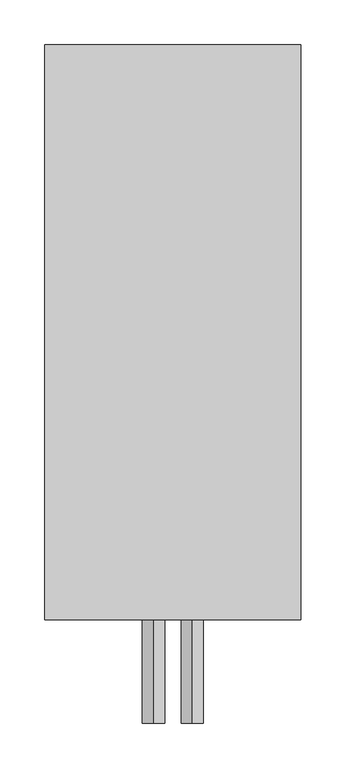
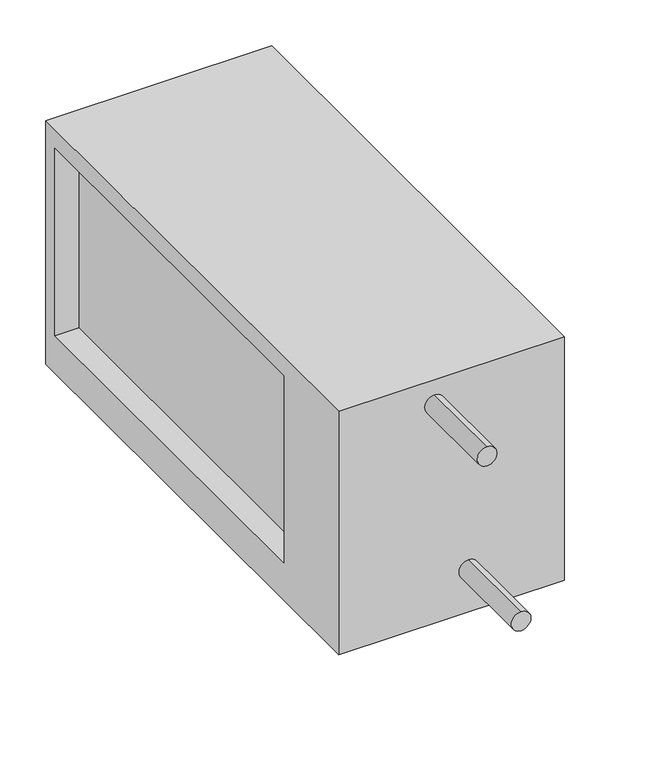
"""IFC4 building model written with IfcOpenShell, lengths in millimetres: proxy geometry, СВ_ВоздухоохладительВодяной_КанальныйПрямоугольный_200-1000_SPC-W : SPC-W-500x250-R."""

from ifc_helpers import new_model, si_unit, point, frame, frame_2d, origin, place, context, project, spatial, polyline, circle_curve, trimmed, segment, composite_curve, outline, extrude, source, transform, mapped, element, save


def mechanical_equipment_186e71d2(model_context):
    return source(origin(), model_context, "Body", "SweptSolid", [
        extrude(outline(polyline([(-370.0, -175.0), (-370.0, 150.0), (270.0, 150.0), (270.0, -175.0), (-370.0, -175.0)]), holes=[polyline([(-250.0, 125.0), (-250.0, -125.0), (250.0, -125.0), (250.0, 125.0), (-250.0, 125.0)])]), frame((-142.5, 0.0, 0.0), z_axis=(1.0, 0.0, 0.0), x_axis=(0.0, 1.0, 0.0)), (0.0, 0.0, 1.0), 285.0),
        extrude(outline(composite_curve([segment(trimmed(circle_curve(frame_2d((-117.5, 21.5)), 12.5), [point((-105.0, 21.5))], [point((-130.0, 21.5))], False, "CARTESIAN"), True, "CONTINUOUS"), segment(trimmed(circle_curve(frame_2d((-117.5, 21.5)), 12.5), [point((-130.0, 21.5))], [point((-105.0, 21.5))], False, "CARTESIAN"), True, "CONTINUOUS")], self_intersect=False)), frame((0.0, -485.0, 0.0), z_axis=(0.0, 1.0, 0.0), x_axis=(0.0, 0.0, 1.0)), (0.0, 0.0, 1.0), 115.0),
        extrude(outline(composite_curve([segment(trimmed(circle_curve(frame_2d((117.5, -21.5)), 12.5), [point((130.0, -21.5))], [point((105.0, -21.5))], False, "CARTESIAN"), True, "CONTINUOUS"), segment(trimmed(circle_curve(frame_2d((117.5, -21.5)), 12.5), [point((105.0, -21.5))], [point((130.0, -21.5))], False, "CARTESIAN"), True, "CONTINUOUS")], self_intersect=False)), frame((0.0, -485.0, 0.0), z_axis=(0.0, 1.0, 0.0), x_axis=(0.0, 0.0, 1.0)), (0.0, 0.0, 1.0), 115.0),
        extrude(outline(composite_curve([segment(trimmed(circle_curve(frame_2d((0.0, -330.0)), 11.0), [point((-11.0, -330.0))], [point((11.0, -330.0))], False, "CARTESIAN"), True, "CONTINUOUS"), segment(trimmed(circle_curve(frame_2d((0.0, -330.0)), 11.0), [point((11.0, -330.0))], [point((-11.0, -330.0))], False, "CARTESIAN"), True, "CONTINUOUS")], self_intersect=False)), frame((0.0, 0.0, -195.0), z_axis=(0.0, 0.0, 1.0), x_axis=(1.0, 0.0, 0.0)), (0.0, 0.0, 1.0), 20.0),
        extrude(outline(polyline([(112.5, 250.0), (112.5, -250.0), (-112.5, -250.0), (-112.5, 250.0), (112.5, 250.0)])), frame((0.0, 0.0, -125.0), z_axis=(0.0, 0.0, 1.0), x_axis=(1.0, 0.0, 0.0)), (0.0, 0.0, 1.0), 250.0),
    ])


if __name__ == "__main__":
    model = new_model("IFC4")
    model_context = context("Model", 3, world=origin())
    ifc_project = project(units=[si_unit("LENGTHUNIT", "METRE", prefix="MILLI")], contexts=[model_context])
    site = spatial("IfcSite", under=ifc_project)
    building = spatial("IfcBuilding", under=site)
    placement = place(None, origin())
    mechanical_equipment_shape = mechanical_equipment_186e71d2(model_context)
    element("IfcBuildingElementProxy", 1, Name="СВ_ВоздухоохладительВодяной_КанальныйПрямоугольный_200-1000_SPC-W : SPC-W-500x250-R", ObjectType="СВ_ВоздухоохладительВодяной_КанальныйПрямоугольный_200-1000_SPC-W : SPC-W-500x250-R", at=placement, inside=building, context=model_context, shape_type="MappedRepresentation", body=[
        mapped(mechanical_equipment_shape, transform((0.0, 0.0, 0.0), x_axis=(1.0, 0.0, 0.0), y_axis=(0.0, 1.0, 0.0), z_axis=(0.0, 0.0, 1.0))),
    ])
    save(model, "model.ifc")
